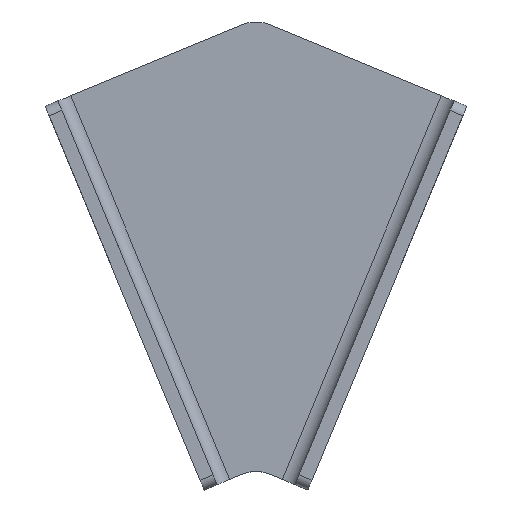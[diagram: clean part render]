
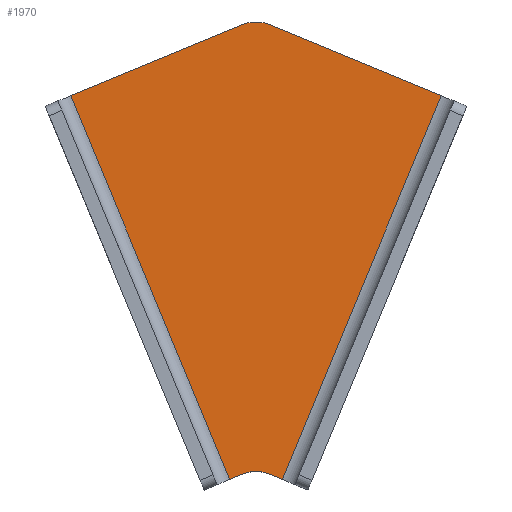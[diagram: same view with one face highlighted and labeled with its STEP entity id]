
A CAD part, top view. The second image highlights one B-rep face of the part: STEP entity #1970.
In plain terms, the highlighted planar face has unit normal (0, 0, 1).
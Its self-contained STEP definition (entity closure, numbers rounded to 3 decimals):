
#101 = PLANE ( 'NONE',  #775 ) ;
#111 = VECTOR ( 'NONE', #1687, 1000. ) ;
#134 = ORIENTED_EDGE ( 'NONE', *, *, #1397, .T. ) ;
#155 = CARTESIAN_POINT ( 'NONE',  ( 18.827, 4.628, 4. ) ) ;
#168 = CARTESIAN_POINT ( 'NONE',  ( 11.173, 4.628, 4. ) ) ;
#184 = VERTEX_POINT ( 'NONE', #523 ) ;
#245 = AXIS2_PLACEMENT_3D ( 'NONE', #1465, #555, #1631 ) ;
#255 = CARTESIAN_POINT ( 'NONE',  ( 0., 0., 4. ) ) ;
#264 = LINE ( 'NONE', #1320, #1398 ) ;
#276 = CARTESIAN_POINT ( 'NONE',  ( 68.531, 113.927, 4. ) ) ;
#284 = ORIENTED_EDGE ( 'NONE', *, *, #1282, .T. ) ;
#298 = EDGE_CURVE ( 'NONE', #184, #1829, #676, .T. ) ;
#299 = CARTESIAN_POINT ( 'NONE',  ( 15., 125.276, 4. ) ) ;
#300 = CIRCLE ( 'NONE', #245, 10. ) ;
#320 = DIRECTION ( 'NONE',  ( -0.924, -0.383, 0. ) ) ;
#353 = EDGE_CURVE ( 'NONE', #577, #1888, #1050, .T. ) ;
#410 = VERTEX_POINT ( 'NONE', #1702 ) ;
#421 = VERTEX_POINT ( 'NONE', #168 ) ;
#502 = ORIENTED_EDGE ( 'NONE', *, *, #353, .T. ) ;
#523 = CARTESIAN_POINT ( 'NONE',  ( 11.173, 134.515, 4. ) ) ;
#537 = DIRECTION ( 'NONE',  ( 1., 0., 0. ) ) ;
#538 = VERTEX_POINT ( 'NONE', #276 ) ;
#540 = ORIENTED_EDGE ( 'NONE', *, *, #1886, .T. ) ;
#555 = DIRECTION ( 'NONE',  ( 0., 0., -1. ) ) ;
#569 = DIRECTION ( 'NONE',  ( -0.924, 0.383, 0. ) ) ;
#573 = DIRECTION ( 'NONE',  ( 0., 0., 1. ) ) ;
#577 = VERTEX_POINT ( 'NONE', #155 ) ;
#579 = CARTESIAN_POINT ( 'NONE',  ( 7.391, 3.061, 4. ) ) ;
#625 = LINE ( 'NONE', #722, #1332 ) ;
#638 = VECTOR ( 'NONE', #1740, 1000. ) ;
#676 = LINE ( 'NONE', #1771, #1498 ) ;
#722 = CARTESIAN_POINT ( 'NONE',  ( 7.391, 3.061, 4. ) ) ;
#765 = CARTESIAN_POINT ( 'NONE',  ( -38.531, 113.927, 4. ) ) ;
#775 = AXIS2_PLACEMENT_3D ( 'NONE', #255, #573, #1649 ) ;
#824 = EDGE_CURVE ( 'NONE', #1568, #421, #1749, .T. ) ;
#842 = CIRCLE ( 'NONE', #1501, 10. ) ;
#975 = FACE_OUTER_BOUND ( 'NONE', #1010, .T. ) ;
#1006 = CARTESIAN_POINT ( 'NONE',  ( 22.609, 3.061, 4. ) ) ;
#1010 = EDGE_LOOP ( 'NONE', ( #502, #1647, #134, #284, #1767, #1787, #1591, #540 ) ) ;
#1050 = LINE ( 'NONE', #1406, #638 ) ;
#1182 = DIRECTION ( 'NONE',  ( 0.383, -0.924, 0. ) ) ;
#1194 = EDGE_CURVE ( 'NONE', #1888, #538, #264, .T. ) ;
#1282 = EDGE_CURVE ( 'NONE', #410, #184, #842, .T. ) ;
#1320 = CARTESIAN_POINT ( 'NONE',  ( 18.216, -7.545, 4. ) ) ;
#1322 = CARTESIAN_POINT ( 'NONE',  ( 75.922, 110.866, 4. ) ) ;
#1332 = VECTOR ( 'NONE', #1182, 1000. ) ;
#1397 = EDGE_CURVE ( 'NONE', #538, #410, #1454, .T. ) ;
#1398 = VECTOR ( 'NONE', #1947, 1000. ) ;
#1406 = CARTESIAN_POINT ( 'NONE',  ( 30., 0., 4. ) ) ;
#1443 = DIRECTION ( 'NONE',  ( 0., 0., 1. ) ) ;
#1454 = LINE ( 'NONE', #1322, #1827 ) ;
#1465 = CARTESIAN_POINT ( 'NONE',  ( 15., -4.611, 4. ) ) ;
#1498 = VECTOR ( 'NONE', #320, 1000. ) ;
#1501 = AXIS2_PLACEMENT_3D ( 'NONE', #299, #1443, #537 ) ;
#1568 = VERTEX_POINT ( 'NONE', #579 ) ;
#1591 = ORIENTED_EDGE ( 'NONE', *, *, #824, .T. ) ;
#1631 = DIRECTION ( 'NONE',  ( 1., 0., 0. ) ) ;
#1647 = ORIENTED_EDGE ( 'NONE', *, *, #1194, .T. ) ;
#1649 = DIRECTION ( 'NONE',  ( 1., 0., 0. ) ) ;
#1687 = DIRECTION ( 'NONE',  ( 0.924, 0.383, 0. ) ) ;
#1702 = CARTESIAN_POINT ( 'NONE',  ( 18.827, 134.515, 4. ) ) ;
#1740 = DIRECTION ( 'NONE',  ( 0.924, -0.383, 0. ) ) ;
#1749 = LINE ( 'NONE', #1838, #111 ) ;
#1767 = ORIENTED_EDGE ( 'NONE', *, *, #298, .T. ) ;
#1771 = CARTESIAN_POINT ( 'NONE',  ( -45.922, 110.866, 4. ) ) ;
#1787 = ORIENTED_EDGE ( 'NONE', *, *, #1978, .T. ) ;
#1827 = VECTOR ( 'NONE', #569, 1000. ) ;
#1829 = VERTEX_POINT ( 'NONE', #765 ) ;
#1838 = CARTESIAN_POINT ( 'NONE',  ( 0., 0., 4. ) ) ;
#1886 = EDGE_CURVE ( 'NONE', #421, #577, #300, .T. ) ;
#1888 = VERTEX_POINT ( 'NONE', #1006 ) ;
#1947 = DIRECTION ( 'NONE',  ( 0.383, 0.924, 0. ) ) ;
#1970 = ADVANCED_FACE ( 'NONE', ( #975 ), #101, .T. ) ;
#1978 = EDGE_CURVE ( 'NONE', #1829, #1568, #625, .T. ) ;
